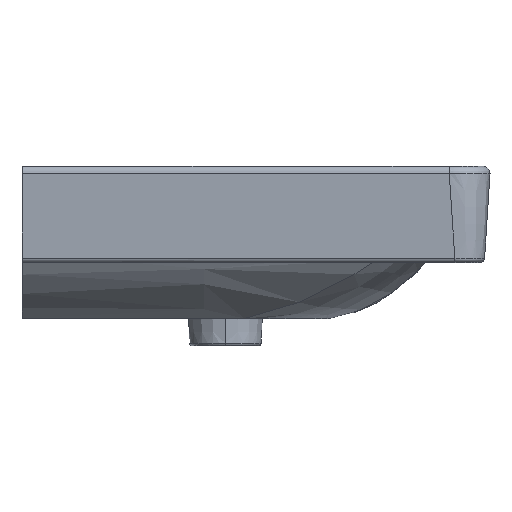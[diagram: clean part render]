
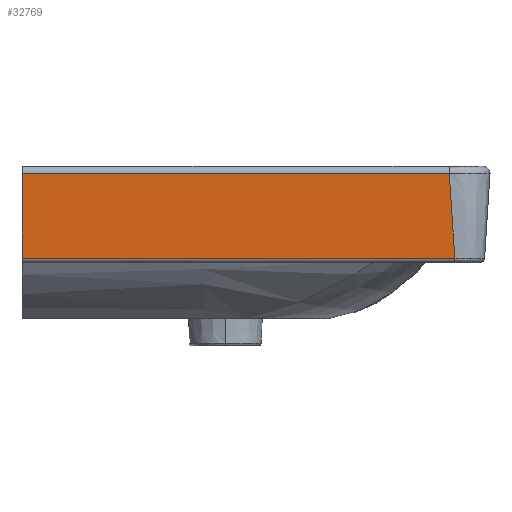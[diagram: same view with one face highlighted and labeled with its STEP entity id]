
A CAD part, front view. The second image highlights one B-rep face of the part: STEP entity #32769.
In plain terms, the highlighted free-form (B-spline) face has degree [5, 1] with [6, 2] control points.
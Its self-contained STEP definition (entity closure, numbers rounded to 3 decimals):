
#6775=CARTESIAN_POINT('Vertex',(220.144,-650.379,122.407)) ;
#6779=CARTESIAN_POINT('Control Point',(220.144,-650.379,122.407)) ;
#6780=CARTESIAN_POINT('Control Point',(221.822,-650.173,105.787)) ;
#6781=CARTESIAN_POINT('Control Point',(223.22,-649.534,89.172)) ;
#6782=CARTESIAN_POINT('Control Point',(224.329,-648.464,72.576)) ;
#6783=CARTESIAN_POINT('Control Point',(225.144,-646.963,55.997)) ;
#6784=CARTESIAN_POINT('Control Point',(225.657,-645.024,39.419)) ;
#6785=CARTESIAN_POINT('Vertex',(225.657,-645.024,39.419)) ;
#32714=CARTESIAN_POINT('Line Origine',(27.483,-645.024,39.419)) ;
#32718=CARTESIAN_POINT('Vertex',(-200.,-645.024,39.419)) ;
#32734=CARTESIAN_POINT('Control Point',(-200.,-650.438,130.)) ;
#32735=CARTESIAN_POINT('Control Point',(219.354,-650.438,130.)) ;
#32736=CARTESIAN_POINT('Control Point',(-200.,-650.382,110.975)) ;
#32737=CARTESIAN_POINT('Control Point',(221.392,-650.382,110.975)) ;
#32738=CARTESIAN_POINT('Control Point',(-200.,-649.76,91.949)) ;
#32739=CARTESIAN_POINT('Control Point',(223.065,-649.76,91.949)) ;
#32740=CARTESIAN_POINT('Control Point',(-200.,-648.573,72.952)) ;
#32741=CARTESIAN_POINT('Control Point',(224.361,-648.573,72.952)) ;
#32742=CARTESIAN_POINT('Control Point',(-200.,-646.821,53.976)) ;
#32743=CARTESIAN_POINT('Control Point',(225.272,-646.821,53.976)) ;
#32744=CARTESIAN_POINT('Control Point',(-200.,-644.494,35.)) ;
#32745=CARTESIAN_POINT('Control Point',(225.785,-644.494,35.)) ;
#32747=CARTESIAN_POINT('Control Point',(220.144,-650.379,122.407)) ;
#32748=CARTESIAN_POINT('Control Point',(136.115,-650.379,122.407)) ;
#32749=CARTESIAN_POINT('Control Point',(52.086,-650.379,122.407)) ;
#32750=CARTESIAN_POINT('Control Point',(-31.942,-650.379,122.407)) ;
#32751=CARTESIAN_POINT('Control Point',(-115.971,-650.379,122.407)) ;
#32752=CARTESIAN_POINT('Control Point',(-200.,-650.379,122.407)) ;
#32753=CARTESIAN_POINT('Vertex',(-200.,-650.379,122.407)) ;
#32757=CARTESIAN_POINT('Control Point',(-200.,-645.024,39.419)) ;
#32758=CARTESIAN_POINT('Control Point',(-200.,-647.444,60.11)) ;
#32759=CARTESIAN_POINT('Control Point',(-200.,-649.142,80.843)) ;
#32760=CARTESIAN_POINT('Control Point',(-200.,-650.121,101.62)) ;
#32761=CARTESIAN_POINT('Control Point',(-200.,-650.379,122.407)) ;
#32715=DIRECTION('Vector Direction',(-1.,0.,0.)) ;
#32764=ORIENTED_EDGE('',*,*,#6787,.F.) ;
#32765=ORIENTED_EDGE('',*,*,#32755,.F.) ;
#32766=ORIENTED_EDGE('',*,*,#32762,.F.) ;
#32767=ORIENTED_EDGE('',*,*,#32720,.F.) ;
#32716=VECTOR('Line Direction',#32715,1.) ;
#32769=ADVANCED_FACE('Hauptk\X2\00F6\X0\rper',(#32768),#32733,.T.) ;
#6778=B_SPLINE_CURVE_WITH_KNOTS('',5,(#6779,#6780,#6781,#6782,#6783,#6784),.UNSPECIFIED.,.F.,.U.,(6,6),(7.623,91.05),.UNSPECIFIED.) ;
#32746=B_SPLINE_CURVE_WITH_KNOTS('',5,(#32747,#32748,#32749,#32750,#32751,#32752),.UNSPECIFIED.,.F.,.U.,(6,6),(-189.247,230.107),.UNSPECIFIED.) ;
#32756=B_SPLINE_CURVE_WITH_KNOTS('',4,(#32757,#32758,#32759,#32760,#32761),.UNSPECIFIED.,.F.,.U.,(5,5),(6.292,124.115),.UNSPECIFIED.) ;
#32733=B_SPLINE_SURFACE_WITH_KNOTS('',5,1,((#32734,#32735),(#32736,#32737),(#32738,#32739),(#32740,#32741),(#32742,#32743),(#32744,#32745)),.UNSPECIFIED.,.F.,.F.,.U.,(6,6),(2,2),(0.,95.498),(-219.354,200.),.UNSPECIFIED.) ;
#6787=EDGE_CURVE('',#6776,#6786,#6778,.T.) ;
#32720=EDGE_CURVE('',#6786,#32719,#32717,.T.) ;
#32755=EDGE_CURVE('',#32754,#6776,#32746,.F.) ;
#32762=EDGE_CURVE('',#32719,#32754,#32756,.T.) ;
#32763=EDGE_LOOP('',(#32764,#32765,#32766,#32767)) ;
#32768=FACE_OUTER_BOUND('',#32763,.T.) ;
#32717=LINE('Line',#32714,#32716) ;
#6776=VERTEX_POINT('',#6775) ;
#6786=VERTEX_POINT('',#6785) ;
#32719=VERTEX_POINT('',#32718) ;
#32754=VERTEX_POINT('',#32753) ;
